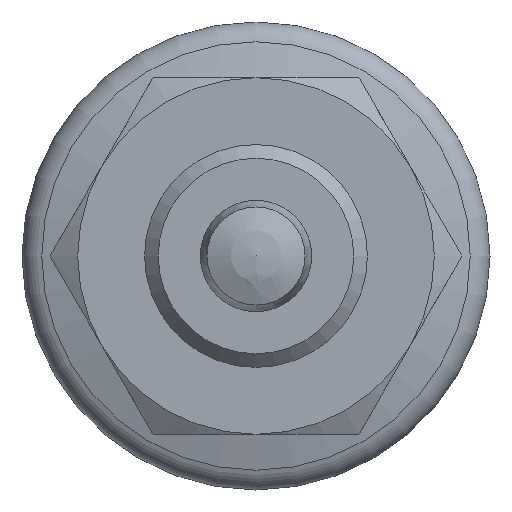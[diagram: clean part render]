
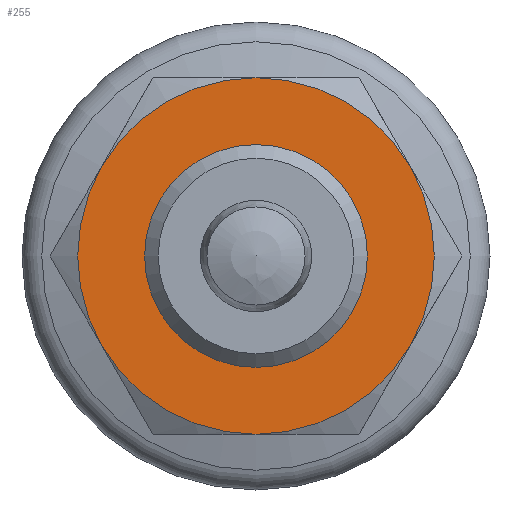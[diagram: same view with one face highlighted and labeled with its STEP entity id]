
A CAD part, front view. The second image highlights one B-rep face of the part: STEP entity #255.
In plain terms, the highlighted planar face has unit normal (0, -1, 0) as drawn and (0, 1, 0) by its records, which use the part's own axes.
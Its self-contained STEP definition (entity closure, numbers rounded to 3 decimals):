
#255 = ADVANCED_FACE( '', ( #393, #394 ), #395, .F. );
#393 = FACE_OUTER_BOUND( '', #581, .T. );
#394 = FACE_BOUND( '', #582, .T. );
#395 = PLANE( '', #583 );
#581 = EDGE_LOOP( '', ( #912, #913, #914, #915, #916, #917 ) );
#582 = EDGE_LOOP( '', ( #918 ) );
#583 = AXIS2_PLACEMENT_3D( '', #919, #920, #921 );
#912 = ORIENTED_EDGE( '', *, *, #1077, .F. );
#913 = ORIENTED_EDGE( '', *, *, #1079, .F. );
#914 = ORIENTED_EDGE( '', *, *, #1075, .F. );
#915 = ORIENTED_EDGE( '', *, *, #1082, .F. );
#916 = ORIENTED_EDGE( '', *, *, #1081, .F. );
#917 = ORIENTED_EDGE( '', *, *, #1076, .F. );
#918 = ORIENTED_EDGE( '', *, *, #1083, .T. );
#919 = CARTESIAN_POINT( '', ( 0., 5., 0. ) );
#920 = DIRECTION( '', ( 0., -1., 0. ) );
#921 = DIRECTION( '', ( 0., 0., -1. ) );
#1075 = EDGE_CURVE( '', #1199, #1208, #1239, .T. );
#1076 = EDGE_CURVE( '', #1226, #1232, #1240, .T. );
#1077 = EDGE_CURVE( '', #1241, #1226, #1242, .T. );
#1079 = EDGE_CURVE( '', #1208, #1241, #1244, .T. );
#1081 = EDGE_CURVE( '', #1232, #1236, #1246, .T. );
#1082 = EDGE_CURVE( '', #1236, #1199, #1247, .T. );
#1083 = EDGE_CURVE( '', #1248, #1248, #1249, .T. );
#1199 = VERTEX_POINT( '', #1455 );
#1208 = VERTEX_POINT( '', #1487 );
#1226 = VERTEX_POINT( '', #1539 );
#1232 = VERTEX_POINT( '', #1563 );
#1236 = VERTEX_POINT( '', #1584 );
#1239 = CIRCLE( '', #1599, 8. );
#1240 = CIRCLE( '', #1600, 8. );
#1241 = VERTEX_POINT( '', #1601 );
#1242 = CIRCLE( '', #1602, 8. );
#1244 = CIRCLE( '', #1609, 8. );
#1246 = CIRCLE( '', #1618, 8. );
#1247 = CIRCLE( '', #1619, 8. );
#1248 = VERTEX_POINT( '', #1620 );
#1249 = CIRCLE( '', #1621, 5. );
#1455 = CARTESIAN_POINT( '', ( -6.928, 5., -4. ) );
#1487 = CARTESIAN_POINT( '', ( 0., 5., -8. ) );
#1539 = CARTESIAN_POINT( '', ( 6.928, 5., 4. ) );
#1563 = CARTESIAN_POINT( '', ( 0., 5., 8. ) );
#1584 = CARTESIAN_POINT( '', ( -6.928, 5., 4. ) );
#1599 = AXIS2_PLACEMENT_3D( '', #1759, #1760, #1761 );
#1600 = AXIS2_PLACEMENT_3D( '', #1762, #1763, #1764 );
#1601 = CARTESIAN_POINT( '', ( 6.928, 5., -4. ) );
#1602 = AXIS2_PLACEMENT_3D( '', #1765, #1766, #1767 );
#1609 = AXIS2_PLACEMENT_3D( '', #1768, #1769, #1770 );
#1618 = AXIS2_PLACEMENT_3D( '', #1771, #1772, #1773 );
#1619 = AXIS2_PLACEMENT_3D( '', #1774, #1775, #1776 );
#1620 = CARTESIAN_POINT( '', ( 0., 5., -5. ) );
#1621 = AXIS2_PLACEMENT_3D( '', #1777, #1778, #1779 );
#1759 = CARTESIAN_POINT( '', ( 0., 5., 0. ) );
#1760 = DIRECTION( '', ( 0., -1., 0. ) );
#1761 = DIRECTION( '', ( 0., 0., -1. ) );
#1762 = CARTESIAN_POINT( '', ( 0., 5., 0. ) );
#1763 = DIRECTION( '', ( 0., -1., 0. ) );
#1764 = DIRECTION( '', ( 0., 0., -1. ) );
#1765 = CARTESIAN_POINT( '', ( 0., 5., 0. ) );
#1766 = DIRECTION( '', ( 0., -1., 0. ) );
#1767 = DIRECTION( '', ( 0., 0., -1. ) );
#1768 = CARTESIAN_POINT( '', ( 0., 5., 0. ) );
#1769 = DIRECTION( '', ( 0., -1., 0. ) );
#1770 = DIRECTION( '', ( 0., 0., -1. ) );
#1771 = CARTESIAN_POINT( '', ( 0., 5., 0. ) );
#1772 = DIRECTION( '', ( 0., -1., 0. ) );
#1773 = DIRECTION( '', ( 0., 0., -1. ) );
#1774 = CARTESIAN_POINT( '', ( 0., 5., 0. ) );
#1775 = DIRECTION( '', ( 0., -1., 0. ) );
#1776 = DIRECTION( '', ( 0., 0., -1. ) );
#1777 = CARTESIAN_POINT( '', ( 0., 5., 0. ) );
#1778 = DIRECTION( '', ( 0., -1., 0. ) );
#1779 = DIRECTION( '', ( 0., 0., -1. ) );
